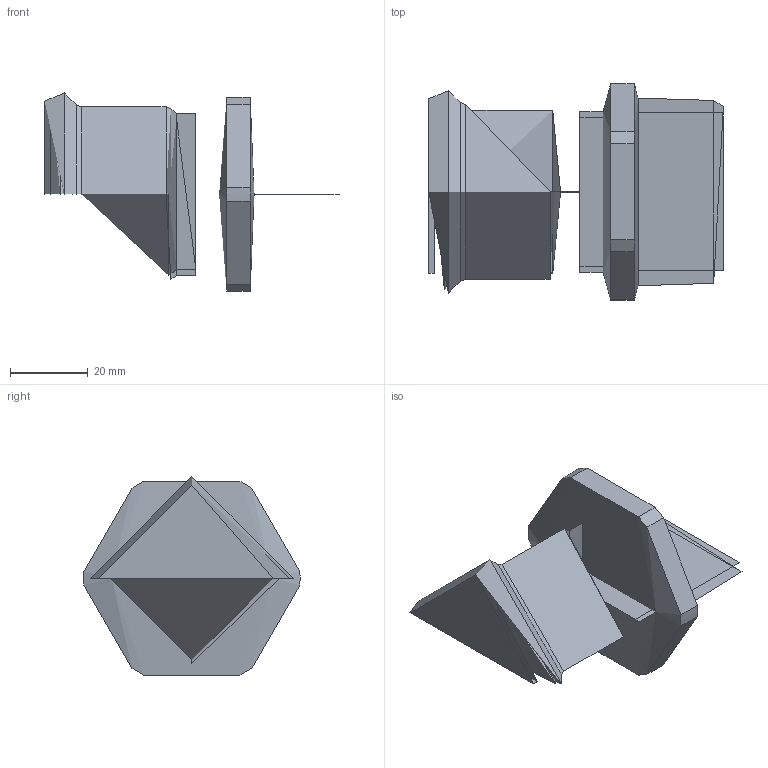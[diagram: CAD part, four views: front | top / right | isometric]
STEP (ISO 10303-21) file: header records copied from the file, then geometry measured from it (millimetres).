
FILE_DESCRIPTION(('FreeCAD Model'),'2;1');
FILE_NAME('Open CASCADE Shape Model','2025-10-20T15:01:29',('Author'),( ''),'Open CASCADE STEP processor 7.8','FreeCAD','Unknown');
FILE_SCHEMA(('AUTOMOTIVE_DESIGN { 1 0 10303 214 1 1 1 1 }'));
Length unit declared in the file: millimetre
Products named in the file (7): Unnamed164; COMPOUND; COMPOUND001; X-Achse; XY-Ebene; COMPOUND002; COMPOUND003
Assembly tree (18 placements, depth 3):
  Unnamed164
    COMPOUND
    COMPOUND001
      COMPOUND
    X-Achse  x6
    XY-Ebene  x6
    COMPOUND002
    COMPOUND003
      COMPOUND002
Bounding box: 76 x 55.74 x 51.12 mm (x, y, z)
Volume: 55987 mm3; surface area: 49046 mm2
Topology: 4 solids, 4 shells, 78 faces, 240 edges, 166 vertices
Faces by surface type: bspline 78
Entity records: 1912 total; most frequent: CARTESIAN_POINT 1080, ORIENTED_EDGE 234, EDGE_CURVE 117, VERTEX_POINT 83, FACE_BOUND 44, EDGE_LOOP 44, DIRECTION 39, ADVANCED_FACE 39
